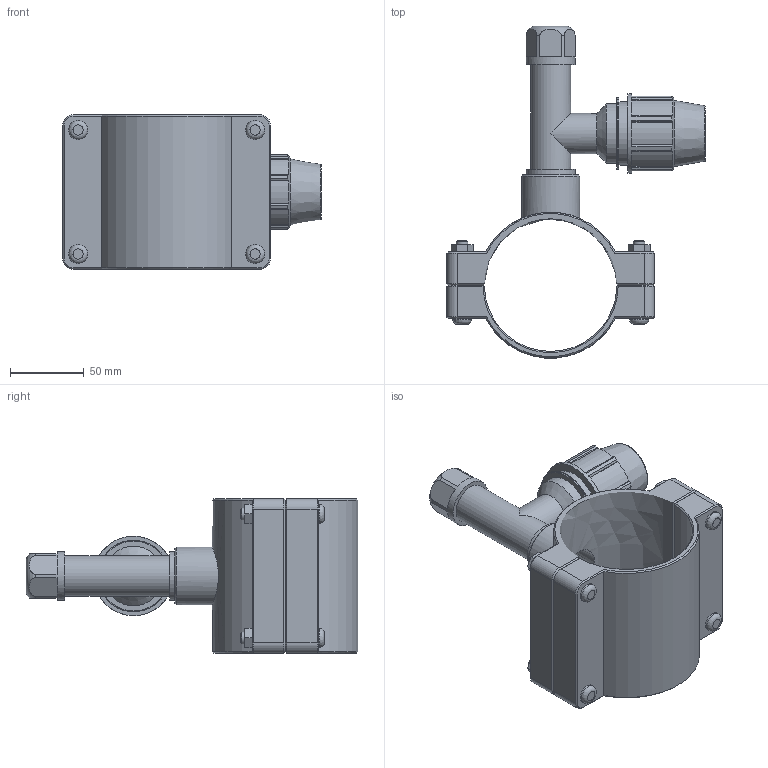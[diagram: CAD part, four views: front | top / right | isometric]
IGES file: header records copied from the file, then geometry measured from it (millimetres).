
Global section: file name: 165400090025_165406090025.ipt; native system: Autodesk Inventor 2015; preprocessor: unknown; author: KIM; date: 20170618.093902; units: millimetre
Bounding box: 175.5 x 225.32 x 105 mm (x, y, z)
Volume: 485797.5 mm3; surface area: 135312.1 mm2
Topology: 1 solids, 1 shells, 232 faces, 582 edges, 378 vertices
Faces by surface type: plane 145, cylinder 42, cone 28, revolution 17
Full cylindrical faces by diameter (mm): 8 x4, 13 x8, 27.262 x2, 30.291 x1, 33.32 x2, 39.378 x1, 40.5 x1, 43.2 x1, 48.6 x1, 54 x1
